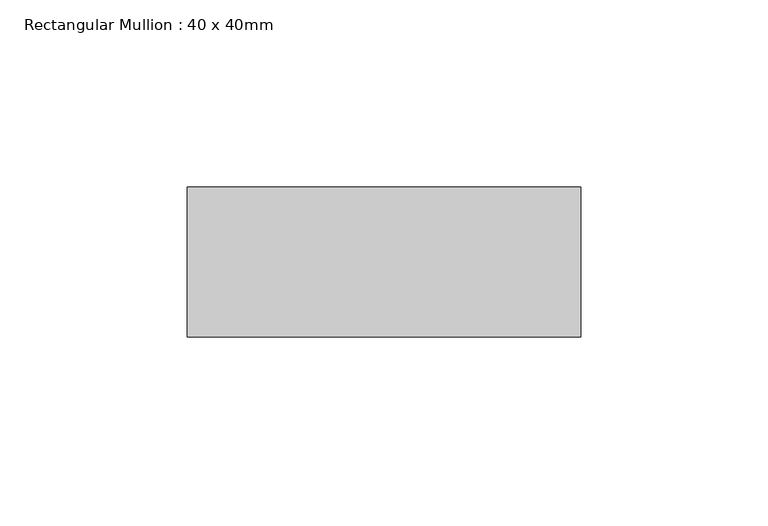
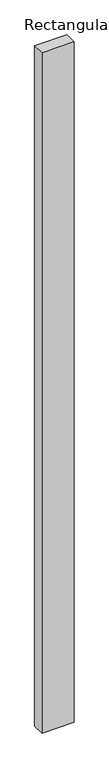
"""IFC4 building model written with IfcOpenShell, lengths in millimetres: member geometry, Rectangular Mullion : 40 x 40mm."""

from ifc_helpers import new_model, si_unit, frame, origin, place, context, project, spatial, polyline, outline, extrude, source, transform, mapped, element, save


def rectangular_mullion_40_x_40mm_08261390(model_context):
    return source(origin(), model_context, "Body", "SweptSolid", [
        extrude(outline(polyline([(80.0, -20.0), (80.0, -60.0), (-25.0, -60.0), (-25.0, -20.0), (80.0, -20.0)])), frame((0.0, 0.0, -2331.3909204), z_axis=(0.0, 0.0, 1.0), x_axis=(1.0, 0.0, 0.0)), (0.0, 0.0, 1.0), 2331.3909204),
    ])


if __name__ == "__main__":
    model = new_model("IFC4")
    model_context = context("Model", 3, world=origin())
    ifc_project = project(units=[si_unit("LENGTHUNIT", "METRE", prefix="MILLI")], contexts=[model_context])
    site = spatial("IfcSite", under=ifc_project)
    building = spatial("IfcBuilding", under=site)
    placement = place(None, origin())
    rectangular_mullion_40_x_40mm_shape = rectangular_mullion_40_x_40mm_08261390(model_context)
    element("IfcMember", 1, ObjectType="Rectangular Mullion : 40 x 40mm", at=placement, inside=building, context=model_context, shape_type="MappedRepresentation", body=[
        mapped(rectangular_mullion_40_x_40mm_shape, transform((0.0, 0.0, 0.0), x_axis=(1.0, 0.0, 0.0), y_axis=(0.0, 1.0, 0.0), z_axis=(0.0, 0.0, 1.0))),
    ])
    save(model, "model.ifc")
